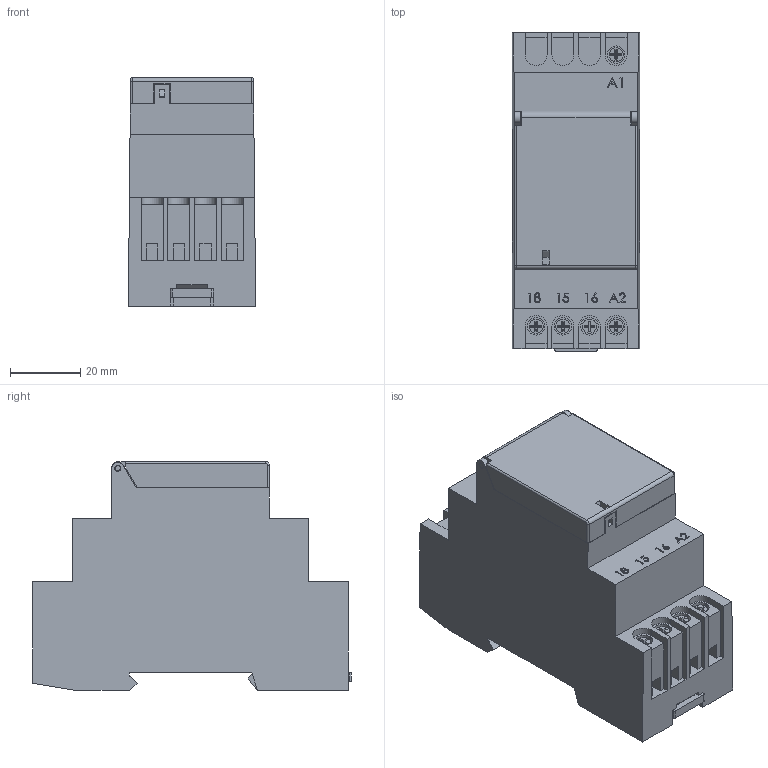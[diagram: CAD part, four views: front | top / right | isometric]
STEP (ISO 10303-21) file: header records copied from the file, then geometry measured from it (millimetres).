
FILE_DESCRIPTION (( 'STEP AP203' ), '1' );
FILE_NAME ('TM-ADIN.STEP', '2018-07-12T17:34:26', ( '' ), ( '' ), 'SwSTEP 2.0', 'SolidWorks 2012', '' );
FILE_SCHEMA (( 'CONFIG_CONTROL_DESIGN' ));
Length unit declared in the file: millimetre
Products named in the file (1): TM-ADIN
Bounding box: 36.3 x 90.8 x 65.14 mm (x, y, z)
Volume: 152173.6 mm3; surface area: 26775.8 mm2
Topology: 2 solids, 2 shells, 555 faces, 1497 edges, 992 vertices
Faces by surface type: plane 421, bspline 66, cylinder 58, torus 10
Entity records: 21278 total; most frequent: CARTESIAN_POINT 7559, ORIENTED_EDGE 2994, DIRECTION 2479, EDGE_CURVE 1497, VECTOR 1223, LINE 1223, VERTEX_POINT 992, AXIS2_PLACEMENT_3D 628
